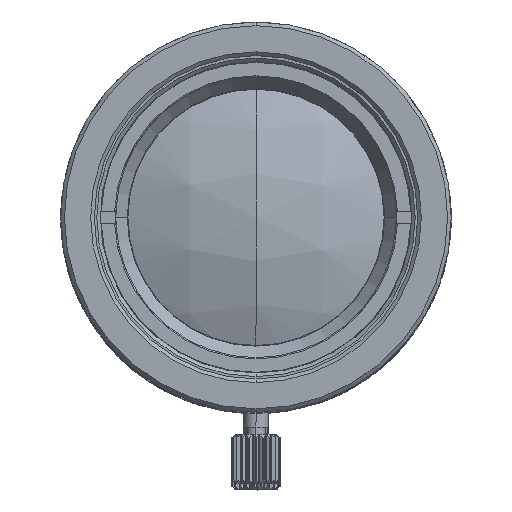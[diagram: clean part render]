
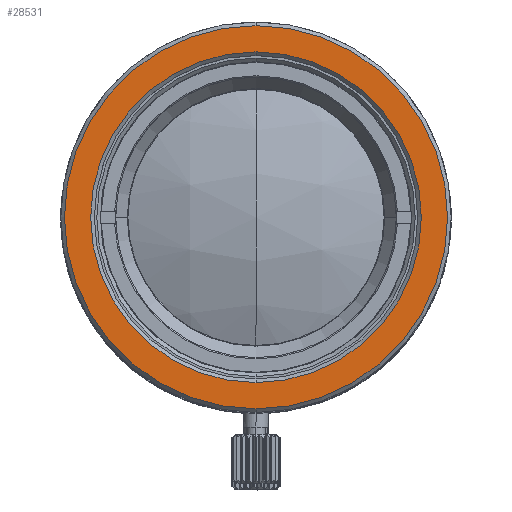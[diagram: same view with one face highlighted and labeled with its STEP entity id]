
A CAD part, top view. The second image highlights one B-rep face of the part: STEP entity #28531.
In plain terms, the highlighted planar face has unit normal (0, 0, 1).
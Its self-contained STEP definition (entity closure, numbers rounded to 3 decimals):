
#280 = PLANE ( 'NONE',  #45045 ) ;
#628 = CIRCLE ( 'NONE', #23214, 13.55 ) ;
#6961 = AXIS2_PLACEMENT_3D ( 'NONE', #18920, #33834, #34066 ) ;
#8487 = VERTEX_POINT ( 'NONE', #23066 ) ;
#8828 = VERTEX_POINT ( 'NONE', #9463 ) ;
#9463 = CARTESIAN_POINT ( 'NONE',  ( 0., -15.7, 28.6 ) ) ;
#10245 = EDGE_CURVE ( 'NONE', #20223, #8487, #628, .T. ) ;
#10771 = DIRECTION ( 'NONE',  ( 0., -1., 0. ) ) ;
#11856 = EDGE_CURVE ( 'NONE', #8828, #36546, #18294, .T. ) ;
#12138 = CARTESIAN_POINT ( 'NONE',  ( 0., 15.7, 28.6 ) ) ;
#12991 = DIRECTION ( 'NONE',  ( 0., 0., 1. ) ) ;
#13471 = CARTESIAN_POINT ( 'NONE',  ( 0., 0., 28.6 ) ) ;
#14750 = CIRCLE ( 'NONE', #6961, 13.55 ) ;
#15126 = CARTESIAN_POINT ( 'NONE',  ( 0., -13.55, 28.6 ) ) ;
#15803 = DIRECTION ( 'NONE',  ( 0., 0., 1. ) ) ;
#16495 = EDGE_CURVE ( 'NONE', #36546, #8828, #38750, .T. ) ;
#16581 = ORIENTED_EDGE ( 'NONE', *, *, #16495, .T. ) ;
#17928 = DIRECTION ( 'NONE',  ( 0., -1., 0. ) ) ;
#18294 = CIRCLE ( 'NONE', #31565, 15.7 ) ;
#18920 = CARTESIAN_POINT ( 'NONE',  ( 0., 0., 28.6 ) ) ;
#19810 = EDGE_LOOP ( 'NONE', ( #23842, #30008 ) ) ;
#20223 = VERTEX_POINT ( 'NONE', #15126 ) ;
#21588 = AXIS2_PLACEMENT_3D ( 'NONE', #13471, #12991, #28860 ) ;
#22079 = DIRECTION ( 'NONE',  ( 0., 0., -1. ) ) ;
#22233 = CARTESIAN_POINT ( 'NONE',  ( 0., 16., 28.6 ) ) ;
#23066 = CARTESIAN_POINT ( 'NONE',  ( 0., 13.55, 28.6 ) ) ;
#23214 = AXIS2_PLACEMENT_3D ( 'NONE', #44062, #22079, #17928 ) ;
#23842 = ORIENTED_EDGE ( 'NONE', *, *, #10245, .T. ) ;
#28531 = ADVANCED_FACE ( 'NONE', ( #48105, #44702 ), #280, .T. ) ;
#28860 = DIRECTION ( 'NONE',  ( 0., -1., 0. ) ) ;
#30008 = ORIENTED_EDGE ( 'NONE', *, *, #35391, .T. ) ;
#31565 = AXIS2_PLACEMENT_3D ( 'NONE', #41260, #15803, #38068 ) ;
#33834 = DIRECTION ( 'NONE',  ( 0., 0., -1. ) ) ;
#34066 = DIRECTION ( 'NONE',  ( 0., -1., 0. ) ) ;
#35391 = EDGE_CURVE ( 'NONE', #8487, #20223, #14750, .T. ) ;
#36546 = VERTEX_POINT ( 'NONE', #12138 ) ;
#36644 = DIRECTION ( 'NONE',  ( 0., 0., 1. ) ) ;
#38068 = DIRECTION ( 'NONE',  ( 0., -1., 0. ) ) ;
#38750 = CIRCLE ( 'NONE', #21588, 15.7 ) ;
#40936 = EDGE_LOOP ( 'NONE', ( #16581, #45443 ) ) ;
#41260 = CARTESIAN_POINT ( 'NONE',  ( 0., 0., 28.6 ) ) ;
#44062 = CARTESIAN_POINT ( 'NONE',  ( 0., 0., 28.6 ) ) ;
#44702 = FACE_OUTER_BOUND ( 'NONE', #40936, .T. ) ;
#45045 = AXIS2_PLACEMENT_3D ( 'NONE', #22233, #36644, #10771 ) ;
#45443 = ORIENTED_EDGE ( 'NONE', *, *, #11856, .T. ) ;
#48105 = FACE_BOUND ( 'NONE', #19810, .T. ) ;
